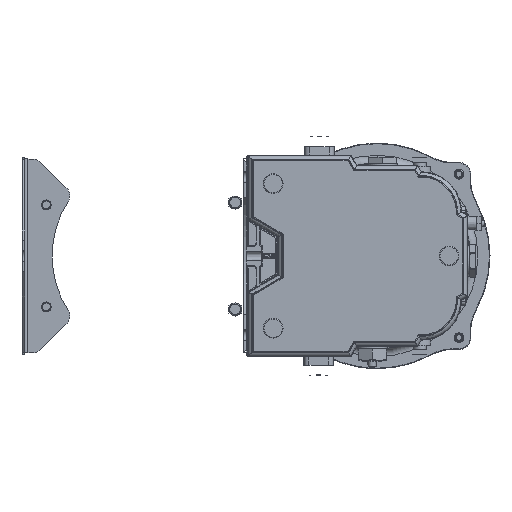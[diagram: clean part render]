
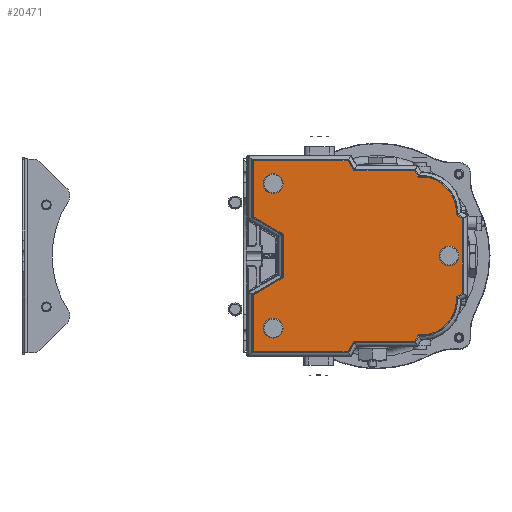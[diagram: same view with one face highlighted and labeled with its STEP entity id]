
A CAD part, front view. The second image highlights one B-rep face of the part: STEP entity #20471.
In plain terms, the highlighted planar face has unit normal (0, -1, 0).
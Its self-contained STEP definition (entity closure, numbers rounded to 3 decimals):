
#19044=DIRECTION('',(-0.5,0.,0.866));
#19045=VECTOR('',#19044,0.462);
#19046=CARTESIAN_POINT('',(4.271,-5.6,3.392));
#19047=LINE('',#19046,#19045);
#19048=DIRECTION('',(-1.,0.,0.));
#19049=VECTOR('',#19048,2.415);
#19050=CARTESIAN_POINT('',(6.686,-5.6,3.392));
#19051=LINE('',#19050,#19049);
#19052=DIRECTION('',(0.5,0.,-0.866));
#19053=VECTOR('',#19052,0.294);
#19054=CARTESIAN_POINT('',(6.686,-5.6,3.392));
#19055=LINE('',#19054,#19053);
#19056=CARTESIAN_POINT('',(6.95,-5.6,1.75));
#19057=DIRECTION('',(0.,-1.,0.));
#19058=DIRECTION('',(0.996,0.,-0.084));
#19059=AXIS2_PLACEMENT_3D('',#19056,#19057,#19058);
#19061=DIRECTION('',(0.866,0.,-0.5));
#19062=VECTOR('',#19061,0.294);
#19063=CARTESIAN_POINT('',(8.337,-5.6,1.633));
#19064=LINE('',#19063,#19062);
#19065=DIRECTION('',(0.,0.,1.));
#19066=VECTOR('',#19065,2.971);
#19067=CARTESIAN_POINT('',(8.592,-5.6,-1.486));
#19068=LINE('',#19067,#19066);
#19069=DIRECTION('',(-0.866,0.,-0.5));
#19070=VECTOR('',#19069,0.294);
#19071=CARTESIAN_POINT('',(8.592,-5.6,-1.486));
#19072=LINE('',#19071,#19070);
#19073=CARTESIAN_POINT('',(6.95,-5.6,-1.75));
#19074=DIRECTION('',(0.,-1.,0.));
#19075=DIRECTION('',(-0.084,0.,-0.996));
#19076=AXIS2_PLACEMENT_3D('',#19073,#19074,#19075);
#19078=DIRECTION('',(-0.5,0.,-0.866));
#19079=VECTOR('',#19078,0.294);
#19080=CARTESIAN_POINT('',(6.833,-5.6,-3.137));
#19081=LINE('',#19080,#19079);
#19082=DIRECTION('',(1.,0.,0.));
#19083=VECTOR('',#19082,2.415);
#19084=CARTESIAN_POINT('',(4.271,-5.6,-3.392));
#19085=LINE('',#19084,#19083);
#19086=DIRECTION('',(0.5,0.,0.866));
#19087=VECTOR('',#19086,0.462);
#19088=CARTESIAN_POINT('',(4.04,-5.6,-3.792));
#19089=LINE('',#19088,#19087);
#19090=DIRECTION('',(1.,0.,0.));
#19091=VECTOR('',#19090,3.772);
#19092=CARTESIAN_POINT('',(0.268,-5.6,-3.792));
#19093=LINE('',#19092,#19091);
#19094=DIRECTION('',(0.,0.,-1.));
#19095=VECTOR('',#19094,2.235);
#19096=CARTESIAN_POINT('',(0.268,-5.6,-1.557));
#19097=LINE('',#19096,#19095);
#19098=DIRECTION('',(-0.866,0.,-0.5));
#19099=VECTOR('',#19098,1.374);
#19100=CARTESIAN_POINT('',(1.458,-5.6,-0.87));
#19101=LINE('',#19100,#19099);
#19102=DIRECTION('',(0.,0.,-1.));
#19103=VECTOR('',#19102,1.74);
#19104=CARTESIAN_POINT('',(1.458,-5.6,0.87));
#19105=LINE('',#19104,#19103);
#19106=DIRECTION('',(0.866,0.,-0.5));
#19107=VECTOR('',#19106,1.374);
#19108=CARTESIAN_POINT('',(0.268,-5.6,1.557));
#19109=LINE('',#19108,#19107);
#19110=DIRECTION('',(0.,0.,-1.));
#19111=VECTOR('',#19110,2.235);
#19112=CARTESIAN_POINT('',(0.268,-5.6,3.792));
#19113=LINE('',#19112,#19111);
#19114=DIRECTION('',(-1.,0.,0.));
#19115=VECTOR('',#19114,3.772);
#19116=CARTESIAN_POINT('',(4.04,-5.6,3.792));
#19117=LINE('',#19116,#19115);
#19770=CARTESIAN_POINT('',(4.271,-5.6,3.392));
#19771=CARTESIAN_POINT('',(4.04,-5.6,3.792));
#19772=VERTEX_POINT('',#19770);
#19773=VERTEX_POINT('',#19771);
#19776=CARTESIAN_POINT('',(0.268,-5.6,3.792));
#19777=VERTEX_POINT('',#19776);
#19780=CARTESIAN_POINT('',(0.268,-5.6,1.557));
#19781=VERTEX_POINT('',#19780);
#19784=CARTESIAN_POINT('',(1.458,-5.6,0.87));
#19785=VERTEX_POINT('',#19784);
#19788=CARTESIAN_POINT('',(1.458,-5.6,-0.87));
#19789=VERTEX_POINT('',#19788);
#19792=CARTESIAN_POINT('',(0.268,-5.6,-1.557));
#19793=VERTEX_POINT('',#19792);
#19796=CARTESIAN_POINT('',(0.268,-5.6,-3.792));
#19797=VERTEX_POINT('',#19796);
#19800=CARTESIAN_POINT('',(4.04,-5.6,-3.792));
#19801=VERTEX_POINT('',#19800);
#19804=CARTESIAN_POINT('',(4.271,-5.6,-3.392));
#19805=VERTEX_POINT('',#19804);
#19808=CARTESIAN_POINT('',(6.686,-5.6,-3.392));
#19809=VERTEX_POINT('',#19808);
#19810=CARTESIAN_POINT('',(6.833,-5.6,-3.137));
#19811=VERTEX_POINT('',#19810);
#19816=CARTESIAN_POINT('',(8.337,-5.6,-1.633));
#19817=VERTEX_POINT('',#19816);
#19818=CARTESIAN_POINT('',(8.592,-5.6,-1.486));
#19819=VERTEX_POINT('',#19818);
#19824=CARTESIAN_POINT('',(8.592,-5.6,1.486));
#19825=VERTEX_POINT('',#19824);
#19826=CARTESIAN_POINT('',(8.337,-5.6,1.633));
#19827=VERTEX_POINT('',#19826);
#19832=CARTESIAN_POINT('',(6.833,-5.6,3.137));
#19833=VERTEX_POINT('',#19832);
#19834=CARTESIAN_POINT('',(6.686,-5.6,3.392));
#19835=VERTEX_POINT('',#19834);
#20428=CARTESIAN_POINT('',(0.06,-5.6,0.));
#20429=DIRECTION('',(0.,-1.,0.));
#20430=DIRECTION('',(1.,0.,0.));
#20431=AXIS2_PLACEMENT_3D('',#20428,#20429,#20430);
#20432=PLANE('',#20431);
#20434=ORIENTED_EDGE('',*,*,#20433,.F.);
#20436=ORIENTED_EDGE('',*,*,#20435,.F.);
#20438=ORIENTED_EDGE('',*,*,#20437,.T.);
#20440=ORIENTED_EDGE('',*,*,#20439,.F.);
#20442=ORIENTED_EDGE('',*,*,#20441,.T.);
#20444=ORIENTED_EDGE('',*,*,#20443,.F.);
#20446=ORIENTED_EDGE('',*,*,#20445,.T.);
#20448=ORIENTED_EDGE('',*,*,#20447,.F.);
#20450=ORIENTED_EDGE('',*,*,#20449,.T.);
#20452=ORIENTED_EDGE('',*,*,#20451,.F.);
#20454=ORIENTED_EDGE('',*,*,#20453,.F.);
#20456=ORIENTED_EDGE('',*,*,#20455,.F.);
#20458=ORIENTED_EDGE('',*,*,#20457,.F.);
#20460=ORIENTED_EDGE('',*,*,#20459,.F.);
#20462=ORIENTED_EDGE('',*,*,#20461,.F.);
#20464=ORIENTED_EDGE('',*,*,#20463,.F.);
#20466=ORIENTED_EDGE('',*,*,#20465,.F.);
#20468=ORIENTED_EDGE('',*,*,#20467,.F.);
#20469=EDGE_LOOP('',(#20434,#20436,#20438,#20440,#20442,#20444,#20446,#20448,
#20450,#20452,#20454,#20456,#20458,#20460,#20462,#20464,#20466,#20468));
#20470=FACE_OUTER_BOUND('',#20469,.F.);
#20471=ADVANCED_FACE('',(#20470),#20432,.T.);
#19060=CIRCLE('',#19059,1.392);
#19077=CIRCLE('',#19076,1.392);
#20433=EDGE_CURVE('',#19772,#19773,#19047,.T.);
#20435=EDGE_CURVE('',#19835,#19772,#19051,.T.);
#20437=EDGE_CURVE('',#19835,#19833,#19055,.T.);
#20439=EDGE_CURVE('',#19827,#19833,#19060,.T.);
#20441=EDGE_CURVE('',#19827,#19825,#19064,.T.);
#20443=EDGE_CURVE('',#19819,#19825,#19068,.T.);
#20445=EDGE_CURVE('',#19819,#19817,#19072,.T.);
#20447=EDGE_CURVE('',#19811,#19817,#19077,.T.);
#20449=EDGE_CURVE('',#19811,#19809,#19081,.T.);
#20451=EDGE_CURVE('',#19805,#19809,#19085,.T.);
#20453=EDGE_CURVE('',#19801,#19805,#19089,.T.);
#20455=EDGE_CURVE('',#19797,#19801,#19093,.T.);
#20457=EDGE_CURVE('',#19793,#19797,#19097,.T.);
#20459=EDGE_CURVE('',#19789,#19793,#19101,.T.);
#20461=EDGE_CURVE('',#19785,#19789,#19105,.T.);
#20463=EDGE_CURVE('',#19781,#19785,#19109,.T.);
#20465=EDGE_CURVE('',#19777,#19781,#19113,.T.);
#20467=EDGE_CURVE('',#19773,#19777,#19117,.T.);
